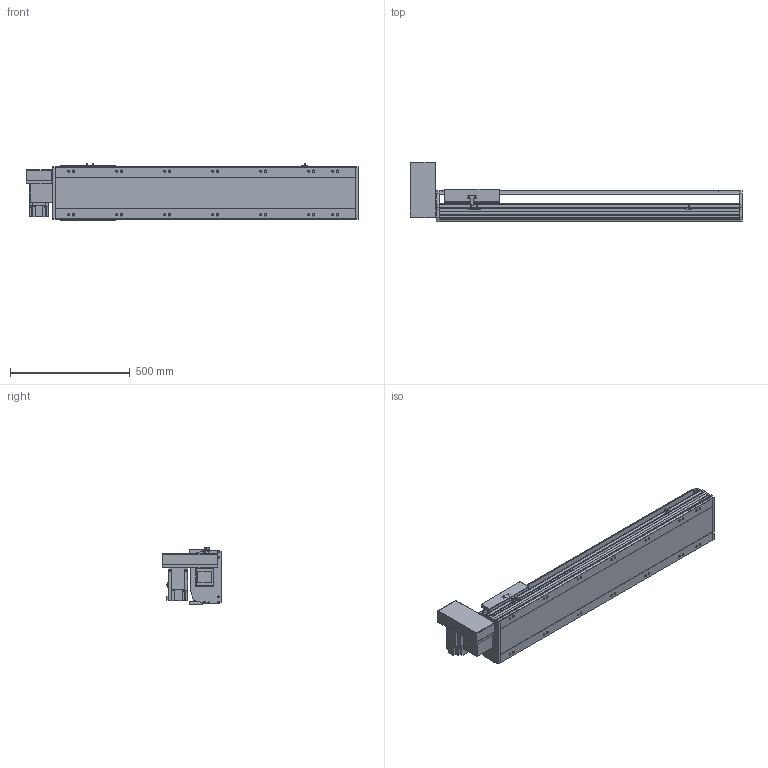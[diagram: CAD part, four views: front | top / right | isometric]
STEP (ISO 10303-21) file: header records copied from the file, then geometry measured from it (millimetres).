
FILE_DESCRIPTION(/* description */ ('STEP AP214'),/* implementation_level */ '2;1');
FILE_NAME(/* name */ 'PBS220-P40-S900-RU-T75-C1-N(0)',/* time_stamp */ '2022-06-13T02:53:18+02:00',/* author */ ('License CC BY-ND 4.0'),/* organization */ ('CADENAS'),/* preprocessor_version */ 'ST-DEVELOPER v18.102',/* originating_system */ 'PARTsolutions',/* authorisation */ ' ');
FILE_SCHEMA (('AUTOMOTIVE_DESIGN {1 0 10303 214 3 1 1}'));
Length unit declared in the file: millimetre
Products named in the file (7): PBS220-P40-S900-RU-T75-C1-N(0); PBS220_sensor; PBS220_plant; PBS220_sliser; T75-p1; PBS220T-RU_motors; PBS220-S900()_body
Assembly tree (8 placements, depth 2):
  PBS220-P40-S900-RU-T75-C1-N(0)
    PBS220_sensor  x3
    PBS220_plant
    PBS220_sliser
    T75-p1
    PBS220T-RU_motors
    PBS220-S900()_body
Bounding box: 1384 x 247 x 238.5 mm (x, y, z)
Volume: 20108964.3 mm3; surface area: 1986223.8 mm2
Topology: 8 solids, 8 shells, 902 faces, 2368 edges, 1540 vertices
Faces by surface type: plane 594, cylinder 270, cone 38
Full cylindrical faces by diameter (mm): 2.013 x4, 4.5 x14, 4.917 x4, 6 x7, 6.647 x8, 8 x10, 8.376 x14, 8.5 x14, 10 x6, 14 x14, 38 x2, 40 x1, 70 x1
Entity records: 25317 total; most frequent: CARTESIAN_POINT 4426, DIRECTION 4401, ORIENTED_EDGE 4070, EDGE_CURVE 2035, AXIS2_PLACEMENT_3D 1529, VERTEX_POINT 1400, LINE 1343, VECTOR 1343
